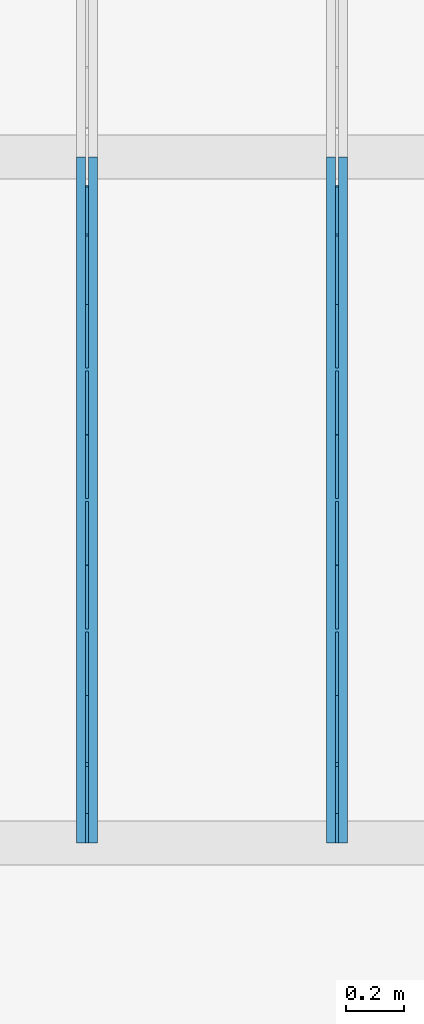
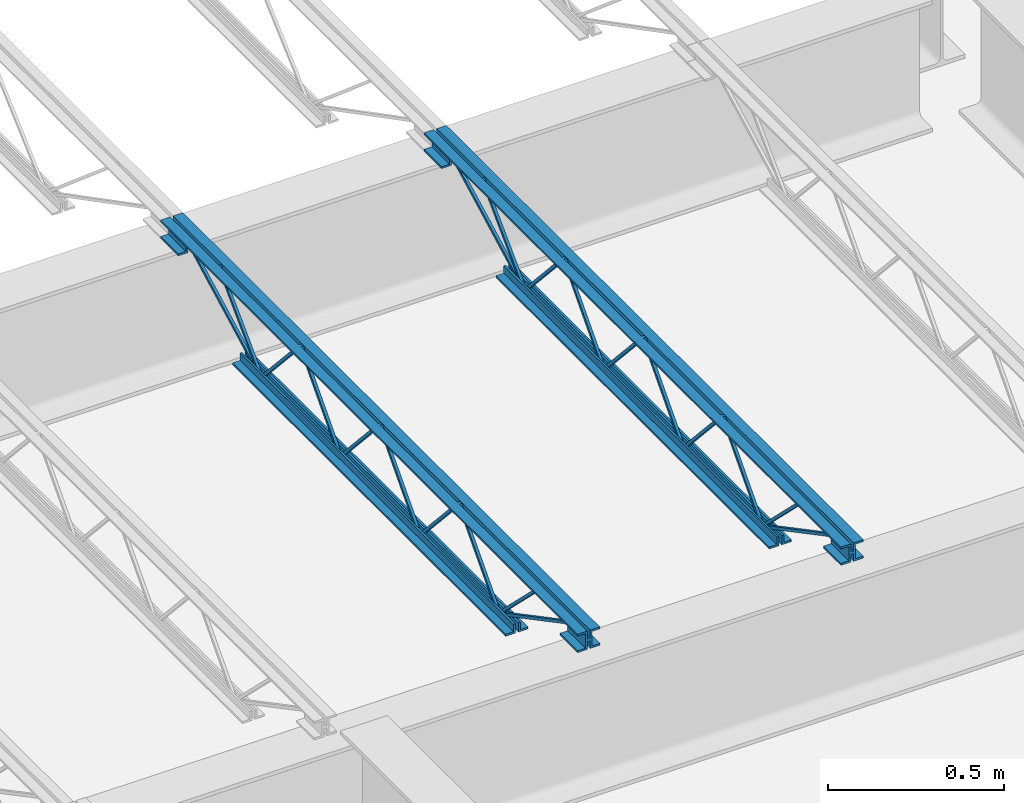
# One storey, part 58 of 75: 2 beams.
"""IFC2X3 building model written with IfcOpenShell, lengths in metres."""

from ifc_helpers import new_model, entity, si_unit, converted_unit, frame, origin, place, context, project, spatial, face_set, surface_model, element, save


model = new_model("IFC2X3")

# Units and contexts
model_context = context("Model", 3, precision=1e-09, world=origin())
plan_context = context("Plan", 3, precision=1e-09, world=origin())
ifc_project = project(units=[si_unit("LENGTHUNIT", "METRE"), si_unit("AREAUNIT", "SQUARE_METRE"), si_unit("VOLUMEUNIT", "CUBIC_METRE"), converted_unit("PLANEANGLEUNIT", "DEGREE", entity("IfcRatioMeasure", 0.01745329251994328), si_unit("PLANEANGLEUNIT", "RADIAN"), dimensions=[0, 0, 0, 0, 0, 0, 0]), si_unit("TIMEUNIT", "SECOND")], contexts=[model_context, plan_context])

# Site, building, storey
site_placement = place(None, origin())
site = spatial("IfcSite", under=ifc_project, at=site_placement, Name="Default", CompositionType="ELEMENT")
building_placement = place(site_placement, origin())
building = spatial("IfcBuilding", under=site, at=building_placement, CompositionType="ELEMENT")
storey_placement = place(building_placement, origin())
storey = spatial("IfcBuildingStorey", under=building, at=storey_placement, Name="First Floor", CompositionType="ELEMENT", Elevation=-3.531500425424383e-13)

# Beams
beam_1_placement = place(storey_placement, frame((-17.5067375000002, 42.41251390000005, 4.214000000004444)))
element("IfcBeam", 1, at=beam_1_placement, inside=storey, Name="M_K-Series Bar Joist-Rod Web:10K1:10K1", ObjectType="M_K-Series Bar Joist-Rod Web:10K1", context=model_context, shape_type="SurfaceModel", body=[
    surface_model("IfcFaceBasedSurfaceModel", [(0.0415000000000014, 0.9583333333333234, 0.01110000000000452), (0.03200000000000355, 0.9583333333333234, 0.01110000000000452), (0.03200000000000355, 0.9583333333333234, 0.001600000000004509), (0.0415000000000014, 0.9583333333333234, 0.001600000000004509), (0.03200000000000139, 0.9594035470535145, 0.01110000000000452), (0.0415000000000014, 0.9594035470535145, 0.01110000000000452), (0.03200000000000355, 0.9636131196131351, 0.001600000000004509), (0.03200000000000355, 1.182429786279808, 0.2429000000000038), (0.03200000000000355, 1.184570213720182, 0.2429000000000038), (0.03200000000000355, 1.403386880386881, 0.001600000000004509), (0.03200000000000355, 1.408666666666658, 0.001600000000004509), (0.03200000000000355, 1.408666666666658, 0.01110000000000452), (0.03200000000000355, 1.40759645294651, 0.01110000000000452), (0.03200000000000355, 1.188779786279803, 0.2524000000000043), (0.03200000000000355, 1.178220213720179, 0.2524000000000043), (0.04150000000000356, 0.9636131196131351, 0.001600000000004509), (0.0415000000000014, 1.1824297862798, 0.2429000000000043), (0.0415000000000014, 1.184570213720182, 0.2429000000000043), (0.0415000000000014, 1.403386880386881, 0.001600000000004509), (0.0415000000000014, 1.408666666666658, 0.001600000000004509), (0.0415000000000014, 1.408666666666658, 0.01110000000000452), (0.0415000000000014, 1.40759645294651, 0.01110000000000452), (0.0415000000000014, 1.188779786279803, 0.2524000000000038), (0.0415000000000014, 1.178220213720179, 0.2524000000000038), (0.0414999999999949, 1.40866666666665, 0.0110999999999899), (0.03199999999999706, 1.40866666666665, 0.0110999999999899), (0.03199999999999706, 1.40866666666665, 0.001599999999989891), (0.0414999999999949, 1.40866666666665, 0.001599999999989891), (0.03199999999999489, 1.409736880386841, 0.0110999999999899), (0.0414999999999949, 1.409736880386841, 0.0110999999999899), (0.03199999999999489, 1.413946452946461, 0.001599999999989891), (0.03199999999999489, 1.632763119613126, 0.2428999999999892), (0.03199999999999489, 1.6349035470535, 0.2428999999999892), (0.03199999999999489, 1.853720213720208, 0.001599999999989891), (0.03199999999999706, 1.858999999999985, 0.001599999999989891), (0.03199999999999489, 1.858999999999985, 0.0110999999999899), (0.03199999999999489, 1.857929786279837, 0.0110999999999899), (0.03199999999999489, 1.639113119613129, 0.2523999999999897), (0.03199999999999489, 1.628553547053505, 0.2523999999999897), (0.0414999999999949, 1.413946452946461, 0.001599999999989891), (0.0414999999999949, 1.632763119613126, 0.2428999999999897), (0.0414999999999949, 1.634903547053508, 0.2428999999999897), (0.0414999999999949, 1.853720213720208, 0.001599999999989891), (0.0414999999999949, 1.858999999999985, 0.001599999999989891), (0.0414999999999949, 1.858999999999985, 0.0110999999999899), (0.0414999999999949, 1.857929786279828, 0.0110999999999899), (0.0414999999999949, 1.639113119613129, 0.2523999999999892), (0.0414999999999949, 1.628553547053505, 0.2523999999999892), (0.0415000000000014, 0.5080000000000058, 0.01110000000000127), (0.03200000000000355, 0.5080000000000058, 0.01110000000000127), (0.03200000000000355, 0.5080000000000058, 0.001600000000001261), (0.0415000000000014, 0.5080000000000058, 0.001600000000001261), (0.03200000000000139, 0.5090702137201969, 0.01110000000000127), (0.0415000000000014, 0.5090702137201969, 0.01110000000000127), (0.03200000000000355, 0.5132797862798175, 0.001600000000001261), (0.03200000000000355, 0.7320964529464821, 0.2429000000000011), (0.03200000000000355, 0.7342368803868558, 0.2429000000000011), (0.03200000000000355, 0.9530535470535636, 0.001600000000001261), (0.03200000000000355, 0.9583333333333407, 0.001600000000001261), (0.03200000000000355, 0.9583333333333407, 0.01110000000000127), (0.03200000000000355, 0.9572631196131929, 0.01110000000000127), (0.03200000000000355, 0.738446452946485, 0.2524000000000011), (0.03200000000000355, 0.7278868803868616, 0.2524000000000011), (0.04150000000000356, 0.5132797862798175, 0.001600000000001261), (0.0415000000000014, 0.7320964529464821, 0.2429000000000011), (0.0415000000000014, 0.7342368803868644, 0.2429000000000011), (0.0415000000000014, 0.9530535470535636, 0.001600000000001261), (0.0415000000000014, 0.9583333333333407, 0.001600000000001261), (0.0415000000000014, 0.9583333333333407, 0.01110000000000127), (0.0415000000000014, 0.9572631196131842, 0.01110000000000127), (0.0415000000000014, 0.738446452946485, 0.2524000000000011), (0.0415000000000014, 0.7278868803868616, 0.2524000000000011), (0.03200000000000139, 2.366999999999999, 0.2539999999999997), (0.0, 2.366999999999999, 0.2539999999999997), (0.0, 2.366999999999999, 0.2474999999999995), (0.0255000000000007, 2.366999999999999, 0.2474999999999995), (0.0255000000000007, 2.366999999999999, 0.2219999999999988), (0.03200000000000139, 2.366999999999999, 0.2219999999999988), (0.0415000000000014, 2.366999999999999, 0.2539999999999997), (0.0415000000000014, 2.366999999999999, 0.2219999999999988), (0.04800000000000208, 2.366999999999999, 0.2219999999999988), (0.04800000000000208, 2.366999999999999, 0.2474999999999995), (0.07350000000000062, 2.366999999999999, 0.2474999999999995), (0.07350000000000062, 2.366999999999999, 0.2539999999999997), (0.03200000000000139, 0.0, 0.2539999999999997), (0.0, 0.0, 0.2539999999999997), (0.0, 0.0, 0.2474999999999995), (0.0255000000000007, 0.0, 0.2474999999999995), (0.0255000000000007, 0.0, 0.2219999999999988), (0.03200000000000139, 0.0, 0.2219999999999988), (0.0415000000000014, 0.0, 0.2539999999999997), (0.0415000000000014, 0.0, 0.2219999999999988), (0.04800000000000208, 0.0, 0.2219999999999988), (0.04800000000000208, 0.0, 0.2474999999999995), (0.07350000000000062, 0.0, 0.2474999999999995), (0.07350000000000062, 0.0, 0.2539999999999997), (0.0415000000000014, 0.09999999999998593, 0.1904999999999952), (0.07350000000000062, 0.09999999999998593, 0.1904999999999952), (0.07350000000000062, 0.09999999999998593, 0.1969999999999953), (0.04800000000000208, 0.09999999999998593, 0.1969999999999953), (0.04800000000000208, 0.09999999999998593, 0.2219999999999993), (0.0415000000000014, 0.09999999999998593, 0.2219999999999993), (0.0, 0.09999999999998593, 0.1904999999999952), (0.03200000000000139, 0.09999999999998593, 0.1904999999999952), (0.03200000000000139, 0.09999999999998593, 0.2219999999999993), (0.0255000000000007, 0.09999999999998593, 0.2219999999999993), (0.0255000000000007, 0.09999999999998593, 0.1969999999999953), (0.0, 0.09999999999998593, 0.1969999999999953), (0.0415000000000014, 0.0, 0.1904999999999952), (0.07350000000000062, 0.0, 0.1904999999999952), (0.07350000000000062, 0.0, 0.1969999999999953), (0.04800000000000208, 0.0, 0.1969999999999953), (0.04800000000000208, 0.0, 0.2219999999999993), (0.0415000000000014, 0.0, 0.2219999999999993), (0.0, 0.0, 0.1904999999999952), (0.03200000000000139, 0.0, 0.1904999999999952), (0.03200000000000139, 0.0, 0.2219999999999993), (0.0255000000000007, 0.0, 0.2219999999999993), (0.0255000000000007, 0.0, 0.1969999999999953), (0.0, 0.0, 0.1969999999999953), (0.03200000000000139, 2.366999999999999, 0.1904999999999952), (0.03200000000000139, 2.366999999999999, 0.2219999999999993), (0.02550000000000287, 2.366999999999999, 0.2219999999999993), (0.02550000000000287, 2.366999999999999, 0.1969999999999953), (0.0, 2.366999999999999, 0.1969999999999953), (0.0, 2.366999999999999, 0.1904999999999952), (0.0415000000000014, 2.366999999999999, 0.1904999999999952), (0.07350000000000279, 2.366999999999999, 0.1904999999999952), (0.07350000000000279, 2.366999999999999, 0.1969999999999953), (0.04800000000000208, 2.366999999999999, 0.1969999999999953), (0.04800000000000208, 2.366999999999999, 0.2219999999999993), (0.0415000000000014, 2.366999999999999, 0.2219999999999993), (0.03200000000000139, 2.266999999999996, 0.1904999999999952), (0.03200000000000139, 2.266999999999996, 0.2219999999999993), (0.02550000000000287, 2.266999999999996, 0.2219999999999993), (0.02550000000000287, 2.266999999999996, 0.1969999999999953), (0.0, 2.266999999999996, 0.1969999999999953), (0.0, 2.266999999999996, 0.1904999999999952), (0.0415000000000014, 2.266999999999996, 0.1904999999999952), (0.07350000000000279, 2.266999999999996, 0.1904999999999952), (0.07350000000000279, 2.266999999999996, 0.1969999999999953), (0.04800000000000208, 2.266999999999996, 0.1969999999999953), (0.04800000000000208, 2.266999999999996, 0.2219999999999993), (0.0415000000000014, 2.266999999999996, 0.2219999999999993), (0.03200000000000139, 1.959000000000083, 0.0), (0.03200000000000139, 1.959000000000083, 0.03199999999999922), (0.0255000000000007, 1.959000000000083, 0.03199999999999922), (0.0255000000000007, 1.959000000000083, 0.006500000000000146), (0.0, 1.959000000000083, 0.006500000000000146), (0.0, 1.959000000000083, 0.0), (0.0415000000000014, 1.959000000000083, 0.0), (0.07350000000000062, 1.959000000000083, 0.0), (0.07350000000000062, 1.959000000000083, 0.006500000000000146), (0.04800000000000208, 1.959000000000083, 0.006500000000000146), (0.04800000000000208, 1.959000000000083, 0.03199999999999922), (0.0415000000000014, 1.959000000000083, 0.03199999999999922), (0.03200000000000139, 0.4080000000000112, 0.0), (0.03200000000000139, 0.4080000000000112, 0.03199999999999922), (0.0255000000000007, 0.4080000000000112, 0.03199999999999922), (0.0255000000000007, 0.4080000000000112, 0.006500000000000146), (0.0, 0.4080000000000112, 0.006500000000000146), (0.0, 0.4080000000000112, 0.0), (0.0415000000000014, 0.4080000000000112, 0.0), (0.07350000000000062, 0.4080000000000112, 0.0), (0.07350000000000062, 0.4080000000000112, 0.006500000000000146), (0.04800000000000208, 0.4080000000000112, 0.006500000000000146), (0.04800000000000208, 0.4080000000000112, 0.03199999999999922), (0.0415000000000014, 0.4080000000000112, 0.03199999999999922), (0.0415000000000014, 0.5102196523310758, 0.01054948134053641), (0.03200000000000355, 0.5102196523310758, 0.01054948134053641), (0.03200000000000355, 0.5057803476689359, 0.002150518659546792), (0.0415000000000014, 0.5057803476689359, 0.002150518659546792), (0.0415000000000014, 0.1011780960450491, 0.2267499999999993), (0.0415000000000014, 0.0, 0.2267499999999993), (0.0415000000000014, 0.0, 0.2172499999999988), (0.0415000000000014, 0.09882190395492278, 0.2172499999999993), (0.03200000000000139, 0.09882190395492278, 0.2172499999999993), (0.03200000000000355, 0.1011780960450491, 0.2267499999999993), (0.03200000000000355, 0.0, 0.2267499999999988), (0.03200000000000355, 0.0, 0.2172499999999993), (0.0415000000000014, 0.2628761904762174, 0.2397000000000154), (0.03200000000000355, 0.2628761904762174, 0.2397000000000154), (0.03200000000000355, 0.2628761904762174, 0.2302000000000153), (0.0415000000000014, 0.2628761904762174, 0.2302000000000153), (0.03200000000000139, 0.2775206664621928, 0.2397000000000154), (0.0415000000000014, 0.2775206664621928, 0.2397000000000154), (0.03200000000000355, 0.2736317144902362, 0.2302000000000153), (0.03200000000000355, 0.5046692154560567, 0.002963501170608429), (0.03200000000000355, 0.5113307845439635, 0.00973649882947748), (0.04150000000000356, 0.2736317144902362, 0.2302000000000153), (0.0415000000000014, 0.5046692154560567, 0.002963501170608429), (0.0415000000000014, 0.5113307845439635, 0.00973649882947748), (0.0415000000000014, 2.269219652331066, 0.2178005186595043), (0.0415000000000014, 2.264780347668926, 0.2261994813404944), (0.03200000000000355, 2.264780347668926, 0.2261994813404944), (0.03200000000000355, 2.269219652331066, 0.2178005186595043), (0.0415000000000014, 1.861219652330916, 0.002150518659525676), (0.0415000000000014, 1.856780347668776, 0.01054948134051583), (0.03200000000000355, 1.856780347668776, 0.01054948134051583), (0.03200000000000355, 1.861219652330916, 0.002150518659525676), (0.0415000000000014, 2.102050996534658, 0.2443025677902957), (0.0415000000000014, 2.095310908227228, 0.2509974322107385), (0.03200000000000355, 2.095310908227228, 0.2509974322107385), (0.03200000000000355, 2.102050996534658, 0.2443025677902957), (0.0415000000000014, 1.862370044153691, 0.0030025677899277), (0.0415000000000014, 1.855629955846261, 0.009697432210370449), (0.03200000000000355, 1.855629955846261, 0.009697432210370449), (0.03200000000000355, 1.862370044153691, 0.0030025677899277)], [face_set([[[0, 1, 2, 3]], [[1, 4, 5, 0]], [[2, 6, 7, 8, 9, 10, 11, 12, 13, 14, 4, 1]], [[3, 2, 6, 15]], [[0, 3, 15, 16, 17, 18, 19, 20, 21, 22, 23, 5]], [[4, 5, 23, 14]], [[15, 16, 7, 6]], [[14, 13, 22, 23]], [[16, 7, 8, 17]], [[13, 12, 21, 22]], [[17, 8, 9, 18]], [[20, 11, 10, 19]], [[12, 11, 20, 21]], [[18, 9, 10, 19]]]), face_set([[[24, 25, 26, 27]], [[25, 28, 29, 24]], [[26, 30, 31, 32, 33, 34, 35, 36, 37, 38, 28, 25]], [[27, 26, 30, 39]], [[24, 27, 39, 40, 41, 42, 43, 44, 45, 46, 47, 29]], [[28, 29, 47, 38]], [[39, 40, 31, 30]], [[38, 37, 46, 47]], [[40, 31, 32, 41]], [[37, 36, 45, 46]], [[41, 32, 33, 42]], [[44, 35, 34, 43]], [[36, 35, 44, 45]], [[42, 33, 34, 43]]]), face_set([[[48, 49, 50, 51]], [[49, 52, 53, 48]], [[50, 54, 55, 56, 57, 58, 59, 60, 61, 62, 52, 49]], [[51, 50, 54, 63]], [[48, 51, 63, 64, 65, 66, 67, 68, 69, 70, 71, 53]], [[52, 53, 71, 62]], [[63, 64, 55, 54]], [[62, 61, 70, 71]], [[64, 55, 56, 65]], [[61, 60, 69, 70]], [[65, 56, 57, 66]], [[68, 59, 58, 67]], [[60, 59, 68, 69]], [[66, 57, 58, 67]]]), face_set([[[72, 73, 74, 75, 76, 77]], [[78, 79, 80, 81, 82, 83]], [[84, 85, 86, 87, 88, 89]], [[90, 91, 92, 93, 94, 95]], [[77, 72, 84, 89]], [[76, 77, 89, 88]], [[75, 87, 88, 76]], [[74, 75, 87, 86]], [[73, 85, 86, 74]], [[72, 84, 85, 73]], [[83, 95, 90, 78]], [[82, 83, 95, 94]], [[81, 82, 94, 93]], [[80, 81, 93, 92]], [[79, 80, 92, 91]], [[78, 90, 91, 79]]]), face_set([[[96, 97, 98, 99, 100, 101]], [[102, 103, 104, 105, 106, 107]], [[108, 109, 110, 111, 112, 113]], [[114, 115, 116, 117, 118, 119]], [[101, 113, 108, 96]], [[100, 112, 113, 101]], [[99, 100, 112, 111]], [[98, 110, 111, 99]], [[97, 98, 110, 109]], [[96, 97, 109, 108]], [[107, 119, 114, 102]], [[106, 118, 119, 107]], [[105, 117, 118, 106]], [[104, 116, 117, 105]], [[103, 104, 116, 115]], [[102, 103, 115, 114]]]), face_set([[[120, 121, 122, 123, 124, 125]], [[126, 127, 128, 129, 130, 131]], [[132, 133, 134, 135, 136, 137]], [[138, 139, 140, 141, 142, 143]], [[125, 120, 132, 137]], [[124, 136, 137, 125]], [[123, 135, 136, 124]], [[122, 134, 135, 123]], [[121, 133, 134, 122]], [[120, 121, 133, 132]], [[131, 143, 138, 126]], [[130, 142, 143, 131]], [[129, 130, 142, 141]], [[128, 140, 141, 129]], [[127, 128, 140, 139]], [[126, 127, 139, 138]]]), face_set([[[144, 145, 146, 147, 148, 149]], [[150, 151, 152, 153, 154, 155]], [[156, 157, 158, 159, 160, 161]], [[162, 163, 164, 165, 166, 167]], [[149, 144, 156, 161]], [[148, 160, 161, 149]], [[147, 159, 160, 148]], [[146, 158, 159, 147]], [[145, 157, 158, 146]], [[144, 145, 157, 156]], [[155, 167, 162, 150]], [[154, 166, 167, 155]], [[153, 154, 166, 165]], [[152, 164, 165, 153]], [[151, 152, 164, 163]], [[150, 151, 163, 162]]]), face_set([[[168, 169, 170, 171]], [[171, 168, 172, 173, 174, 175]], [[170, 171, 175, 176]], [[169, 177, 178, 179, 176, 170]], [[168, 172, 177, 169]], [[173, 178, 179, 174]], [[176, 175, 174, 179]], [[172, 173, 178, 177]]]), face_set([[[180, 181, 182, 183]], [[181, 184, 185, 180]], [[182, 186, 187, 188, 184, 181]], [[183, 182, 186, 189]], [[180, 183, 189, 190, 191, 185]], [[191, 188, 187, 190]], [[184, 188, 191, 185]], [[189, 186, 187, 190]]]), face_set([[[192, 193, 194, 195]], [[196, 197, 198, 199]], [[195, 199, 196, 192]], [[194, 198, 199, 195]], [[193, 194, 198, 197]], [[192, 193, 197, 196]]]), face_set([[[200, 201, 202, 203]], [[204, 205, 206, 207]], [[203, 207, 204, 200]], [[202, 206, 207, 203]], [[201, 202, 206, 205]], [[200, 201, 205, 204]]])]),
])
beam_2_placement = place(storey_placement, frame((-16.64340000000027, 42.41251390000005, 4.214000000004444)))
element("IfcBeam", 2, at=beam_2_placement, inside=storey, Name="M_K-Series Bar Joist-Rod Web:10K1:10K1", ObjectType="M_K-Series Bar Joist-Rod Web:10K1", context=model_context, shape_type="SurfaceModel", body=[
    surface_model("IfcFaceBasedSurfaceModel", [(0.0415000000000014, 0.9583333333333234, 0.01110000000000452), (0.03200000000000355, 0.9583333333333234, 0.01110000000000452), (0.03200000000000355, 0.9583333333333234, 0.001600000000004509), (0.0415000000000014, 0.9583333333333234, 0.001600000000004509), (0.03200000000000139, 0.9594035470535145, 0.01110000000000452), (0.0415000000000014, 0.9594035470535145, 0.01110000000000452), (0.03200000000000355, 0.9636131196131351, 0.001600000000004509), (0.03200000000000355, 1.182429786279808, 0.2429000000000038), (0.03200000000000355, 1.184570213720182, 0.2429000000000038), (0.03200000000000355, 1.403386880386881, 0.001600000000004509), (0.03200000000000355, 1.408666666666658, 0.001600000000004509), (0.03200000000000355, 1.408666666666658, 0.01110000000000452), (0.03200000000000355, 1.40759645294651, 0.01110000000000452), (0.03200000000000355, 1.188779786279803, 0.2524000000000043), (0.03200000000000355, 1.178220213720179, 0.2524000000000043), (0.04150000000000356, 0.9636131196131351, 0.001600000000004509), (0.0415000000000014, 1.1824297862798, 0.2429000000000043), (0.0415000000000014, 1.184570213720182, 0.2429000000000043), (0.0415000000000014, 1.403386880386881, 0.001600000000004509), (0.0415000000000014, 1.408666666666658, 0.001600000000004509), (0.0415000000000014, 1.408666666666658, 0.01110000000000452), (0.0415000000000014, 1.40759645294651, 0.01110000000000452), (0.0415000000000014, 1.188779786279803, 0.2524000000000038), (0.0415000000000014, 1.178220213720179, 0.2524000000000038), (0.0414999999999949, 1.40866666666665, 0.0110999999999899), (0.03199999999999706, 1.40866666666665, 0.0110999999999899), (0.03199999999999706, 1.40866666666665, 0.001599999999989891), (0.0414999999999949, 1.40866666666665, 0.001599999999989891), (0.03199999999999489, 1.409736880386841, 0.0110999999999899), (0.0414999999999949, 1.409736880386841, 0.0110999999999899), (0.03199999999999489, 1.413946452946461, 0.001599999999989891), (0.03199999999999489, 1.632763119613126, 0.2428999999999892), (0.03199999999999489, 1.6349035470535, 0.2428999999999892), (0.03199999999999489, 1.853720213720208, 0.001599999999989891), (0.03199999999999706, 1.858999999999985, 0.001599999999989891), (0.03199999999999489, 1.858999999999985, 0.0110999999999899), (0.03199999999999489, 1.857929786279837, 0.0110999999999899), (0.03199999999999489, 1.639113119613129, 0.2523999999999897), (0.03199999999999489, 1.628553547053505, 0.2523999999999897), (0.0414999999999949, 1.413946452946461, 0.001599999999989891), (0.0414999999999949, 1.632763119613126, 0.2428999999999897), (0.0414999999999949, 1.634903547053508, 0.2428999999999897), (0.0414999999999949, 1.853720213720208, 0.001599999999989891), (0.0414999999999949, 1.858999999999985, 0.001599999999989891), (0.0414999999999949, 1.858999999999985, 0.0110999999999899), (0.0414999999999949, 1.857929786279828, 0.0110999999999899), (0.0414999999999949, 1.639113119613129, 0.2523999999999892), (0.0414999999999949, 1.628553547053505, 0.2523999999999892), (0.0415000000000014, 0.5080000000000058, 0.01110000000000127), (0.03200000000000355, 0.5080000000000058, 0.01110000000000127), (0.03200000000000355, 0.5080000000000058, 0.001600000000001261), (0.0415000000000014, 0.5080000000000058, 0.001600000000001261), (0.03200000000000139, 0.5090702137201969, 0.01110000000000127), (0.0415000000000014, 0.5090702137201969, 0.01110000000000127), (0.03200000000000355, 0.5132797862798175, 0.001600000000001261), (0.03200000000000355, 0.7320964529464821, 0.2429000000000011), (0.03200000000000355, 0.7342368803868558, 0.2429000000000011), (0.03200000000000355, 0.9530535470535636, 0.001600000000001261), (0.03200000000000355, 0.9583333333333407, 0.001600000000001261), (0.03200000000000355, 0.9583333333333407, 0.01110000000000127), (0.03200000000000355, 0.9572631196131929, 0.01110000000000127), (0.03200000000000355, 0.738446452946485, 0.2524000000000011), (0.03200000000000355, 0.7278868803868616, 0.2524000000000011), (0.04150000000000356, 0.5132797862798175, 0.001600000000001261), (0.0415000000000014, 0.7320964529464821, 0.2429000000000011), (0.0415000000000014, 0.7342368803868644, 0.2429000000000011), (0.0415000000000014, 0.9530535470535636, 0.001600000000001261), (0.0415000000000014, 0.9583333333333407, 0.001600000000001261), (0.0415000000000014, 0.9583333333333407, 0.01110000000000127), (0.0415000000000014, 0.9572631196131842, 0.01110000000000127), (0.0415000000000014, 0.738446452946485, 0.2524000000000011), (0.0415000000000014, 0.7278868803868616, 0.2524000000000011), (0.03200000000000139, 2.366999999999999, 0.2539999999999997), (0.0, 2.366999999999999, 0.2539999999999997), (0.0, 2.366999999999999, 0.2474999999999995), (0.0255000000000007, 2.366999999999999, 0.2474999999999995), (0.0255000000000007, 2.366999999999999, 0.2219999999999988), (0.03200000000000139, 2.366999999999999, 0.2219999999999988), (0.0415000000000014, 2.366999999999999, 0.2539999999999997), (0.0415000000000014, 2.366999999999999, 0.2219999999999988), (0.04800000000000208, 2.366999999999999, 0.2219999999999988), (0.04800000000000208, 2.366999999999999, 0.2474999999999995), (0.07350000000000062, 2.366999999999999, 0.2474999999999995), (0.07350000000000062, 2.366999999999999, 0.2539999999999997), (0.03200000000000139, 0.0, 0.2539999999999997), (0.0, 0.0, 0.2539999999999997), (0.0, 0.0, 0.2474999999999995), (0.0255000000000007, 0.0, 0.2474999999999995), (0.0255000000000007, 0.0, 0.2219999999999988), (0.03200000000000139, 0.0, 0.2219999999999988), (0.0415000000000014, 0.0, 0.2539999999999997), (0.0415000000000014, 0.0, 0.2219999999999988), (0.04800000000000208, 0.0, 0.2219999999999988), (0.04800000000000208, 0.0, 0.2474999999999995), (0.07350000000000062, 0.0, 0.2474999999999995), (0.07350000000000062, 0.0, 0.2539999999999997), (0.0415000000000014, 0.09999999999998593, 0.1904999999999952), (0.07350000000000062, 0.09999999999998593, 0.1904999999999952), (0.07350000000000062, 0.09999999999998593, 0.1969999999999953), (0.04800000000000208, 0.09999999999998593, 0.1969999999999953), (0.04800000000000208, 0.09999999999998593, 0.2219999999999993), (0.0415000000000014, 0.09999999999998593, 0.2219999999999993), (0.0, 0.09999999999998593, 0.1904999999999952), (0.03200000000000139, 0.09999999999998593, 0.1904999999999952), (0.03200000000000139, 0.09999999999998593, 0.2219999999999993), (0.0255000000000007, 0.09999999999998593, 0.2219999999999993), (0.0255000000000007, 0.09999999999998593, 0.1969999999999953), (0.0, 0.09999999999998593, 0.1969999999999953), (0.0415000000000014, 0.0, 0.1904999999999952), (0.07350000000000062, 0.0, 0.1904999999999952), (0.07350000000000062, 0.0, 0.1969999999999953), (0.04800000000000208, 0.0, 0.1969999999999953), (0.04800000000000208, 0.0, 0.2219999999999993), (0.0415000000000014, 0.0, 0.2219999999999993), (0.0, 0.0, 0.1904999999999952), (0.03200000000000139, 0.0, 0.1904999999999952), (0.03200000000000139, 0.0, 0.2219999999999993), (0.0255000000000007, 0.0, 0.2219999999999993), (0.0255000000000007, 0.0, 0.1969999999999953), (0.0, 0.0, 0.1969999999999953), (0.03200000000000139, 2.366999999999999, 0.1904999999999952), (0.03200000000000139, 2.366999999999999, 0.2219999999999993), (0.02550000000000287, 2.366999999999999, 0.2219999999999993), (0.02550000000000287, 2.366999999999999, 0.1969999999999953), (0.0, 2.366999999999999, 0.1969999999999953), (0.0, 2.366999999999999, 0.1904999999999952), (0.0415000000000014, 2.366999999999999, 0.1904999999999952), (0.07350000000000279, 2.366999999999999, 0.1904999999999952), (0.07350000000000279, 2.366999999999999, 0.1969999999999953), (0.04800000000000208, 2.366999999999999, 0.1969999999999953), (0.04800000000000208, 2.366999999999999, 0.2219999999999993), (0.0415000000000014, 2.366999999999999, 0.2219999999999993), (0.03200000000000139, 2.266999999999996, 0.1904999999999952), (0.03200000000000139, 2.266999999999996, 0.2219999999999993), (0.02550000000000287, 2.266999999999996, 0.2219999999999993), (0.02550000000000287, 2.266999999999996, 0.1969999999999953), (0.0, 2.266999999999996, 0.1969999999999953), (0.0, 2.266999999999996, 0.1904999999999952), (0.0415000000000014, 2.266999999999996, 0.1904999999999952), (0.07350000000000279, 2.266999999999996, 0.1904999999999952), (0.07350000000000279, 2.266999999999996, 0.1969999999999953), (0.04800000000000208, 2.266999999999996, 0.1969999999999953), (0.04800000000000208, 2.266999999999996, 0.2219999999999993), (0.0415000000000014, 2.266999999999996, 0.2219999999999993), (0.03200000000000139, 1.959000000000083, 0.0), (0.03200000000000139, 1.959000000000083, 0.03199999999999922), (0.0255000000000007, 1.959000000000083, 0.03199999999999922), (0.0255000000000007, 1.959000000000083, 0.006500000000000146), (0.0, 1.959000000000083, 0.006500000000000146), (0.0, 1.959000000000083, 0.0), (0.0415000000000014, 1.959000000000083, 0.0), (0.07350000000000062, 1.959000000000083, 0.0), (0.07350000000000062, 1.959000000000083, 0.006500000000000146), (0.04800000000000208, 1.959000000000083, 0.006500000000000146), (0.04800000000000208, 1.959000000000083, 0.03199999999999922), (0.0415000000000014, 1.959000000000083, 0.03199999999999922), (0.03200000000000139, 0.4080000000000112, 0.0), (0.03200000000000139, 0.4080000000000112, 0.03199999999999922), (0.0255000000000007, 0.4080000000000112, 0.03199999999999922), (0.0255000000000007, 0.4080000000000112, 0.006500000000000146), (0.0, 0.4080000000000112, 0.006500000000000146), (0.0, 0.4080000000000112, 0.0), (0.0415000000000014, 0.4080000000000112, 0.0), (0.07350000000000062, 0.4080000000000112, 0.0), (0.07350000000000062, 0.4080000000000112, 0.006500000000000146), (0.04800000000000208, 0.4080000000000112, 0.006500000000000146), (0.04800000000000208, 0.4080000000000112, 0.03199999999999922), (0.0415000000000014, 0.4080000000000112, 0.03199999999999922), (0.0415000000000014, 0.5102196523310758, 0.01054948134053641), (0.03200000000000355, 0.5102196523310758, 0.01054948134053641), (0.03200000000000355, 0.5057803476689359, 0.002150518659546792), (0.0415000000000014, 0.5057803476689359, 0.002150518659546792), (0.0415000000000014, 0.1011780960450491, 0.2267499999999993), (0.0415000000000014, 0.0, 0.2267499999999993), (0.0415000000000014, 0.0, 0.2172499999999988), (0.0415000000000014, 0.09882190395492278, 0.2172499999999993), (0.03200000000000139, 0.09882190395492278, 0.2172499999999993), (0.03200000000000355, 0.1011780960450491, 0.2267499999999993), (0.03200000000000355, 0.0, 0.2267499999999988), (0.03200000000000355, 0.0, 0.2172499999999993), (0.0415000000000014, 0.2628761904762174, 0.2397000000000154), (0.03200000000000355, 0.2628761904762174, 0.2397000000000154), (0.03200000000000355, 0.2628761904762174, 0.2302000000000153), (0.0415000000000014, 0.2628761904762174, 0.2302000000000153), (0.03200000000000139, 0.2775206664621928, 0.2397000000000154), (0.0415000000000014, 0.2775206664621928, 0.2397000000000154), (0.03200000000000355, 0.2736317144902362, 0.2302000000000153), (0.03200000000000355, 0.5046692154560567, 0.002963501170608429), (0.03200000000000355, 0.5113307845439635, 0.00973649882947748), (0.04150000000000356, 0.2736317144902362, 0.2302000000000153), (0.0415000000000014, 0.5046692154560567, 0.002963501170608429), (0.0415000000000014, 0.5113307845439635, 0.00973649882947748), (0.0415000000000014, 2.269219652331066, 0.2178005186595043), (0.0415000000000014, 2.264780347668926, 0.2261994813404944), (0.03200000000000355, 2.264780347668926, 0.2261994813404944), (0.03200000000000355, 2.269219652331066, 0.2178005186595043), (0.0415000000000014, 1.861219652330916, 0.002150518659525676), (0.0415000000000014, 1.856780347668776, 0.01054948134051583), (0.03200000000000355, 1.856780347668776, 0.01054948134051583), (0.03200000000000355, 1.861219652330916, 0.002150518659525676), (0.0415000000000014, 2.102050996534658, 0.2443025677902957), (0.0415000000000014, 2.095310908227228, 0.2509974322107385), (0.03200000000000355, 2.095310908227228, 0.2509974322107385), (0.03200000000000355, 2.102050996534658, 0.2443025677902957), (0.0415000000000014, 1.862370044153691, 0.0030025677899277), (0.0415000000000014, 1.855629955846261, 0.009697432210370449), (0.03200000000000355, 1.855629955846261, 0.009697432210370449), (0.03200000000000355, 1.862370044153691, 0.0030025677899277)], [face_set([[[0, 1, 2, 3]], [[1, 4, 5, 0]], [[2, 6, 7, 8, 9, 10, 11, 12, 13, 14, 4, 1]], [[3, 2, 6, 15]], [[0, 3, 15, 16, 17, 18, 19, 20, 21, 22, 23, 5]], [[4, 5, 23, 14]], [[15, 16, 7, 6]], [[14, 13, 22, 23]], [[16, 7, 8, 17]], [[13, 12, 21, 22]], [[17, 8, 9, 18]], [[20, 11, 10, 19]], [[12, 11, 20, 21]], [[18, 9, 10, 19]]]), face_set([[[24, 25, 26, 27]], [[25, 28, 29, 24]], [[26, 30, 31, 32, 33, 34, 35, 36, 37, 38, 28, 25]], [[27, 26, 30, 39]], [[24, 27, 39, 40, 41, 42, 43, 44, 45, 46, 47, 29]], [[28, 29, 47, 38]], [[39, 40, 31, 30]], [[38, 37, 46, 47]], [[40, 31, 32, 41]], [[37, 36, 45, 46]], [[41, 32, 33, 42]], [[44, 35, 34, 43]], [[36, 35, 44, 45]], [[42, 33, 34, 43]]]), face_set([[[48, 49, 50, 51]], [[49, 52, 53, 48]], [[50, 54, 55, 56, 57, 58, 59, 60, 61, 62, 52, 49]], [[51, 50, 54, 63]], [[48, 51, 63, 64, 65, 66, 67, 68, 69, 70, 71, 53]], [[52, 53, 71, 62]], [[63, 64, 55, 54]], [[62, 61, 70, 71]], [[64, 55, 56, 65]], [[61, 60, 69, 70]], [[65, 56, 57, 66]], [[68, 59, 58, 67]], [[60, 59, 68, 69]], [[66, 57, 58, 67]]]), face_set([[[72, 73, 74, 75, 76, 77]], [[78, 79, 80, 81, 82, 83]], [[84, 85, 86, 87, 88, 89]], [[90, 91, 92, 93, 94, 95]], [[77, 72, 84, 89]], [[76, 77, 89, 88]], [[75, 87, 88, 76]], [[74, 75, 87, 86]], [[73, 85, 86, 74]], [[72, 84, 85, 73]], [[83, 95, 90, 78]], [[82, 83, 95, 94]], [[81, 82, 94, 93]], [[80, 81, 93, 92]], [[79, 80, 92, 91]], [[78, 90, 91, 79]]]), face_set([[[96, 97, 98, 99, 100, 101]], [[102, 103, 104, 105, 106, 107]], [[108, 109, 110, 111, 112, 113]], [[114, 115, 116, 117, 118, 119]], [[101, 113, 108, 96]], [[100, 112, 113, 101]], [[99, 100, 112, 111]], [[98, 110, 111, 99]], [[97, 98, 110, 109]], [[96, 97, 109, 108]], [[107, 119, 114, 102]], [[106, 118, 119, 107]], [[105, 117, 118, 106]], [[104, 116, 117, 105]], [[103, 104, 116, 115]], [[102, 103, 115, 114]]]), face_set([[[120, 121, 122, 123, 124, 125]], [[126, 127, 128, 129, 130, 131]], [[132, 133, 134, 135, 136, 137]], [[138, 139, 140, 141, 142, 143]], [[125, 120, 132, 137]], [[124, 136, 137, 125]], [[123, 135, 136, 124]], [[122, 134, 135, 123]], [[121, 133, 134, 122]], [[120, 121, 133, 132]], [[131, 143, 138, 126]], [[130, 142, 143, 131]], [[129, 130, 142, 141]], [[128, 140, 141, 129]], [[127, 128, 140, 139]], [[126, 127, 139, 138]]]), face_set([[[144, 145, 146, 147, 148, 149]], [[150, 151, 152, 153, 154, 155]], [[156, 157, 158, 159, 160, 161]], [[162, 163, 164, 165, 166, 167]], [[149, 144, 156, 161]], [[148, 160, 161, 149]], [[147, 159, 160, 148]], [[146, 158, 159, 147]], [[145, 157, 158, 146]], [[144, 145, 157, 156]], [[155, 167, 162, 150]], [[154, 166, 167, 155]], [[153, 154, 166, 165]], [[152, 164, 165, 153]], [[151, 152, 164, 163]], [[150, 151, 163, 162]]]), face_set([[[168, 169, 170, 171]], [[171, 168, 172, 173, 174, 175]], [[170, 171, 175, 176]], [[169, 177, 178, 179, 176, 170]], [[168, 172, 177, 169]], [[173, 178, 179, 174]], [[176, 175, 174, 179]], [[172, 173, 178, 177]]]), face_set([[[180, 181, 182, 183]], [[181, 184, 185, 180]], [[182, 186, 187, 188, 184, 181]], [[183, 182, 186, 189]], [[180, 183, 189, 190, 191, 185]], [[191, 188, 187, 190]], [[184, 188, 191, 185]], [[189, 186, 187, 190]]]), face_set([[[192, 193, 194, 195]], [[196, 197, 198, 199]], [[195, 199, 196, 192]], [[194, 198, 199, 195]], [[193, 194, 198, 197]], [[192, 193, 197, 196]]]), face_set([[[200, 201, 202, 203]], [[204, 205, 206, 207]], [[203, 207, 204, 200]], [[202, 206, 207, 203]], [[201, 202, 206, 205]], [[200, 201, 205, 204]]])]),
])

save(model, "model.ifc")
